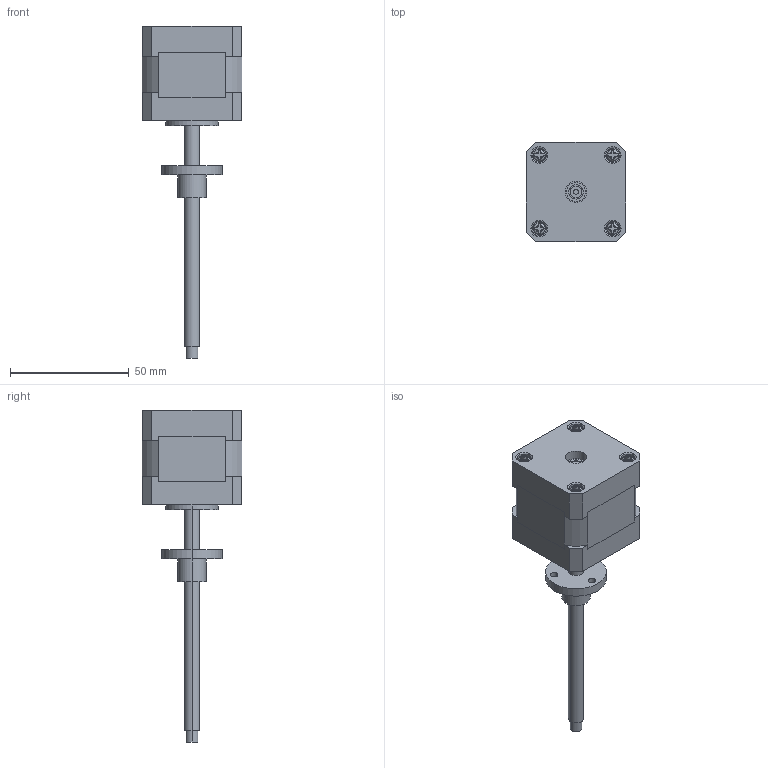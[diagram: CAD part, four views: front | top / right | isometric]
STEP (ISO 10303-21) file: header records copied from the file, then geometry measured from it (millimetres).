
FILE_DESCRIPTION (( 'STEP AP203' ), '1' );
FILE_NAME ('42SE1840-415-TR6.35£ª1.27-100-01.STEP', '2022-06-30T12:22:41', ( 'USER-' ), ( 'MS' ), 'SwSTEP 2.0', 'SolidWorks 2018', '' );
FILE_SCHEMA (( 'CONFIG_CONTROL_DESIGN' ));
Length unit declared in the file: millimetre
Products named in the file (1): 42SE1840-415-TR6.35＊1.27-100-01
Bounding box: 42 x 42 x 140 mm (x, y, z)
Volume: 74312 mm3; surface area: 22061.7 mm2
Topology: 5 solids, 5 shells, 227 faces, 566 edges, 372 vertices
Faces by surface type: plane 125, cylinder 76, torus 16, cone 10
Entity records: 7033 total; most frequent: CARTESIAN_POINT 1422, DIRECTION 1178, ORIENTED_EDGE 1132, EDGE_CURVE 566, AXIS2_PLACEMENT_3D 440, VERTEX_POINT 372, VECTOR 298, LINE 298
